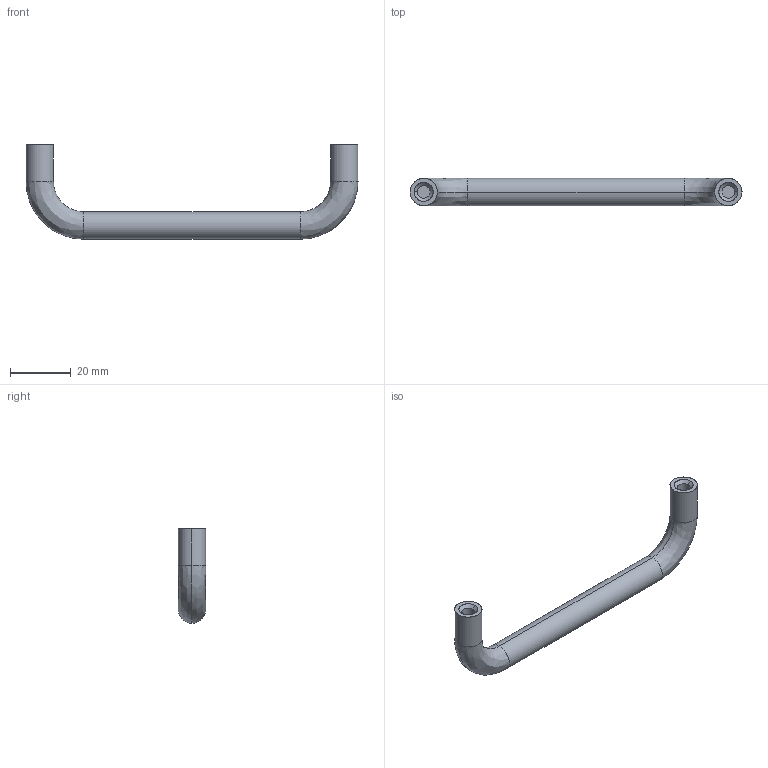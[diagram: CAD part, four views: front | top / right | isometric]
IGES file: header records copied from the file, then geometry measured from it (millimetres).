
Start section: SolidWorks IGES file using analytic representation for surfaces
Global section: file name: C:\Documents and Settings\Deathkiller\桌面\3D IGES\U型把手\MS-742\742-100.IGS; native system: SolidWorks 2006 by SolidWorks Corporation; preprocessor: SolidWorks 2006 by SolidWorks Corporation; author: Deathkiller; date: 080624.172923; units: millimetre
Bounding box: 109 x 9 x 31 mm (x, y, z)
Surface area: 4410.4 mm2 (no closed solid volume)
Topology: 0 solids, 0 shells, 22 faces, 264 edges, 264 vertices
Faces by surface type: revolution 14, bspline 8
